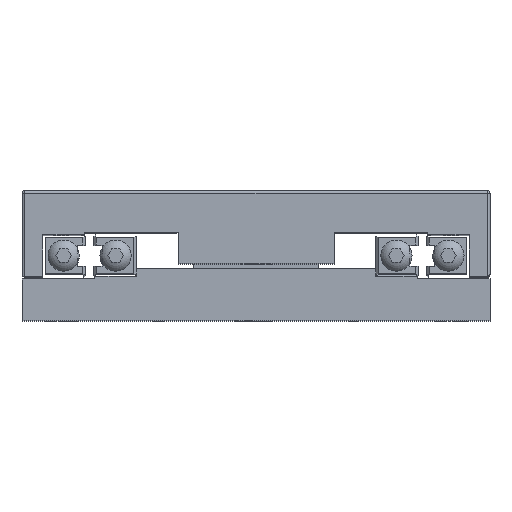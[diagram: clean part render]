
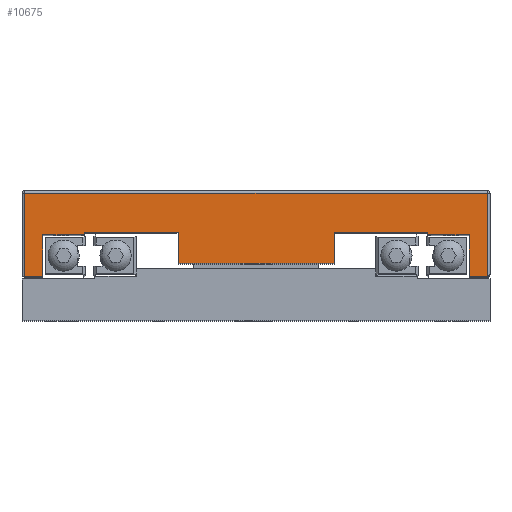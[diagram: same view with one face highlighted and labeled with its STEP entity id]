
A CAD part, top view. The second image highlights one B-rep face of the part: STEP entity #10675.
In plain terms, the highlighted planar face has unit normal (0, 0, 1).
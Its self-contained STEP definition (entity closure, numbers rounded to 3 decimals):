
#1663 = CARTESIAN_POINT ( 'NONE',  ( -67.238, -9.956, 90. ) ) ;
#1664 = DIRECTION ( 'NONE',  ( 0., -1., 0. ) ) ;
#1735 = DIRECTION ( 'NONE',  ( 1., 0., 0. ) ) ;
#1746 = CARTESIAN_POINT ( 'NONE',  ( -67.738, -18.206, 90. ) ) ;
#1764 = CARTESIAN_POINT ( 'NONE',  ( 21.762, -9.956, 90. ) ) ;
#1765 = DIRECTION ( 'NONE',  ( 0., 1., 0. ) ) ;
#1766 = CARTESIAN_POINT ( 'NONE',  ( -55.738, -9.706, 90. ) ) ;
#1767 = DIRECTION ( 'NONE',  ( -1., 0., 0. ) ) ;
#1842 = CARTESIAN_POINT ( 'NONE',  ( 18.262, -10.206, 90. ) ) ;
#1843 = DIRECTION ( 'NONE',  ( 0., 1., 0. ) ) ;
#1852 = CARTESIAN_POINT ( 'NONE',  ( 10.262, -9.706, 90. ) ) ;
#1853 = DIRECTION ( 'NONE',  ( 0., 1., 0. ) ) ;
#1854 = CARTESIAN_POINT ( 'NONE',  ( -63.738, -18.206, 90. ) ) ;
#1855 = DIRECTION ( 'NONE',  ( 0., -1., 0. ) ) ;
#1980 = CARTESIAN_POINT ( 'NONE',  ( -22.738, -2.206, 90. ) ) ;
#1994 = DIRECTION ( 'NONE',  ( -1., 0., 0. ) ) ;
#2138 = EDGE_CURVE ( 'NONE', #3486, #3498, #14800, .T. ) ;
#2166 = EDGE_CURVE ( 'NONE', #3182, #3200, #14755, .T. ) ;
#2168 = EDGE_CURVE ( 'NONE', #3213, #3212, #14750, .T. ) ;
#2174 = EDGE_CURVE ( 'NONE', #3498, #3434, #14743, .T. ) ;
#2191 = EDGE_CURVE ( 'NONE', #3262, #3241, #14718, .T. ) ;
#2193 = EDGE_CURVE ( 'NONE', #3241, #3187, #14714, .T. ) ;
#2205 = EDGE_CURVE ( 'NONE', #3163, #3295, #14697, .T. ) ;
#2207 = EDGE_CURVE ( 'NONE', #3295, #3262, #14692, .T. ) ;
#3163 = VERTEX_POINT ( 'NONE', #4509 ) ;
#3170 = VERTEX_POINT ( 'NONE', #4516 ) ;
#3182 = VERTEX_POINT ( 'NONE', #4528 ) ;
#3187 = VERTEX_POINT ( 'NONE', #4533 ) ;
#3200 = VERTEX_POINT ( 'NONE', #4546 ) ;
#3212 = VERTEX_POINT ( 'NONE', #4558 ) ;
#3213 = VERTEX_POINT ( 'NONE', #4559 ) ;
#3241 = VERTEX_POINT ( 'NONE', #4587 ) ;
#3262 = VERTEX_POINT ( 'NONE', #4608 ) ;
#3295 = VERTEX_POINT ( 'NONE', #4641 ) ;
#3297 = VERTEX_POINT ( 'NONE', #4643 ) ;
#3329 = VERTEX_POINT ( 'NONE', #4675 ) ;
#3434 = VERTEX_POINT ( 'NONE', #4780 ) ;
#3486 = VERTEX_POINT ( 'NONE', #4832 ) ;
#3498 = VERTEX_POINT ( 'NONE', #4844 ) ;
#4509 = CARTESIAN_POINT ( 'NONE',  ( 10.262, -9.706, 90. ) ) ;
#4516 = CARTESIAN_POINT ( 'NONE',  ( 18.262, -18.206, 90. ) ) ;
#4528 = CARTESIAN_POINT ( 'NONE',  ( 18.262, -10.206, 90. ) ) ;
#4533 = CARTESIAN_POINT ( 'NONE',  ( -37.738, -9.706, 90. ) ) ;
#4546 = CARTESIAN_POINT ( 'NONE',  ( 10.262, -10.206, 90. ) ) ;
#4558 = CARTESIAN_POINT ( 'NONE',  ( -63.738, -18.206, 90. ) ) ;
#4559 = CARTESIAN_POINT ( 'NONE',  ( -67.238, -18.206, 90. ) ) ;
#4587 = CARTESIAN_POINT ( 'NONE',  ( -37.738, -15.706, 90. ) ) ;
#4608 = CARTESIAN_POINT ( 'NONE',  ( -7.738, -15.706, 90. ) ) ;
#4641 = CARTESIAN_POINT ( 'NONE',  ( -7.738, -9.706, 90. ) ) ;
#4643 = CARTESIAN_POINT ( 'NONE',  ( -67.238, -2.206, 90. ) ) ;
#4675 = CARTESIAN_POINT ( 'NONE',  ( 21.762, -18.206, 90. ) ) ;
#4780 = CARTESIAN_POINT ( 'NONE',  ( -63.738, -10.206, 90. ) ) ;
#4832 = CARTESIAN_POINT ( 'NONE',  ( -55.738, -9.706, 90. ) ) ;
#4844 = CARTESIAN_POINT ( 'NONE',  ( -55.738, -10.206, 90. ) ) ;
#4988 = CARTESIAN_POINT ( 'NONE',  ( 21.762, -2.206, 90. ) ) ;
#6228 = DIRECTION ( 'NONE',  ( 0., -1., 0. ) ) ;
#6236 = CARTESIAN_POINT ( 'NONE',  ( -55.738, -10.206, 90. ) ) ;
#6301 = CARTESIAN_POINT ( 'NONE',  ( 10.262, -10.206, 90. ) ) ;
#6310 = DIRECTION ( 'NONE',  ( -1., 0., 0. ) ) ;
#6312 = CARTESIAN_POINT ( 'NONE',  ( -67.738, -18.206, 90. ) ) ;
#6314 = DIRECTION ( 'NONE',  ( 1., 0., 0. ) ) ;
#6315 = CARTESIAN_POINT ( 'NONE',  ( -63.738, -10.206, 90. ) ) ;
#6325 = DIRECTION ( 'NONE',  ( -1., 0., 0. ) ) ;
#6366 = CARTESIAN_POINT ( 'NONE',  ( -37.738, -9.706, 90. ) ) ;
#6372 = CARTESIAN_POINT ( 'NONE',  ( -37.738, -15.706, 90. ) ) ;
#6374 = DIRECTION ( 'NONE',  ( -1., 0., 0. ) ) ;
#6379 = DIRECTION ( 'NONE',  ( 0., 1., 0. ) ) ;
#6403 = CARTESIAN_POINT ( 'NONE',  ( -7.738, -9.706, 90. ) ) ;
#6408 = DIRECTION ( 'NONE',  ( -1., 0., 0. ) ) ;
#6411 = CARTESIAN_POINT ( 'NONE',  ( -7.738, -15.706, 90. ) ) ;
#6413 = DIRECTION ( 'NONE',  ( 0., -1., 0. ) ) ;
#7571 = EDGE_LOOP ( 'NONE', ( #15061, #15060, #15059, #15058, #15057, #15056, #15055, #15054, #15053, #15052, #15051, #15050, #15049, #15048, #15047, #15046 ) ) ;
#7587 = VERTEX_POINT ( 'NONE', #4988 ) ;
#8556 = AXIS2_PLACEMENT_3D ( 'NONE', #14348, #14357, #14358 ) ;
#10675 = ADVANCED_FACE ( 'NONE', ( #16125 ), #14354, .F. ) ;
#11064 = VECTOR ( 'NONE', #1994, 1000. ) ;
#11074 = LINE ( 'NONE', #1980, #11064 ) ;
#11145 = VECTOR ( 'NONE', #1855, 1000. ) ;
#11149 = VECTOR ( 'NONE', #1853, 1000. ) ;
#11151 = LINE ( 'NONE', #1854, #11145 ) ;
#11152 = VECTOR ( 'NONE', #1843, 1000. ) ;
#11154 = LINE ( 'NONE', #1852, #11149 ) ;
#11156 = LINE ( 'NONE', #1842, #11152 ) ;
#11225 = VECTOR ( 'NONE', #1767, 1000. ) ;
#11229 = VECTOR ( 'NONE', #1765, 1000. ) ;
#11231 = LINE ( 'NONE', #1766, #11225 ) ;
#11238 = LINE ( 'NONE', #1764, #11229 ) ;
#11250 = VECTOR ( 'NONE', #1735, 1000. ) ;
#11268 = LINE ( 'NONE', #1746, #11250 ) ;
#11327 = VECTOR ( 'NONE', #1664, 1000. ) ;
#11332 = LINE ( 'NONE', #1663, #11327 ) ;
#13019 = EDGE_CURVE ( 'NONE', #3297, #3213, #11332, .T. ) ;
#13051 = EDGE_CURVE ( 'NONE', #3170, #3329, #11268, .T. ) ;
#13058 = EDGE_CURVE ( 'NONE', #3329, #7587, #11238, .T. ) ;
#13059 = EDGE_CURVE ( 'NONE', #3187, #3486, #11231, .T. ) ;
#13090 = EDGE_CURVE ( 'NONE', #3170, #3182, #11156, .T. ) ;
#13091 = EDGE_CURVE ( 'NONE', #3200, #3163, #11154, .T. ) ;
#13092 = EDGE_CURVE ( 'NONE', #3434, #3212, #11151, .T. ) ;
#13125 = EDGE_CURVE ( 'NONE', #7587, #3297, #11074, .T. ) ;
#14348 = CARTESIAN_POINT ( 'NONE',  ( -22.738, -9.956, 90. ) ) ;
#14354 = PLANE ( 'NONE',  #8556 ) ;
#14357 = DIRECTION ( 'NONE',  ( 0., 0., -1. ) ) ;
#14358 = DIRECTION ( 'NONE',  ( -1., 0., 0. ) ) ;
#14690 = VECTOR ( 'NONE', #6413, 1000. ) ;
#14692 = LINE ( 'NONE', #6411, #14690 ) ;
#14693 = VECTOR ( 'NONE', #6408, 1000. ) ;
#14697 = LINE ( 'NONE', #6403, #14693 ) ;
#14712 = VECTOR ( 'NONE', #6379, 1000. ) ;
#14714 = LINE ( 'NONE', #6366, #14712 ) ;
#14716 = VECTOR ( 'NONE', #6374, 1000. ) ;
#14718 = LINE ( 'NONE', #6372, #14716 ) ;
#14737 = VECTOR ( 'NONE', #6325, 1000. ) ;
#14743 = LINE ( 'NONE', #6315, #14737 ) ;
#14748 = VECTOR ( 'NONE', #6314, 1000. ) ;
#14750 = LINE ( 'NONE', #6312, #14748 ) ;
#14751 = VECTOR ( 'NONE', #6310, 1000. ) ;
#14755 = LINE ( 'NONE', #6301, #14751 ) ;
#14794 = VECTOR ( 'NONE', #6228, 1000. ) ;
#14800 = LINE ( 'NONE', #6236, #14794 ) ;
#15046 = ORIENTED_EDGE ( 'NONE', *, *, #13090, .F. ) ;
#15047 = ORIENTED_EDGE ( 'NONE', *, *, #2166, .F. ) ;
#15048 = ORIENTED_EDGE ( 'NONE', *, *, #13091, .F. ) ;
#15049 = ORIENTED_EDGE ( 'NONE', *, *, #2205, .F. ) ;
#15050 = ORIENTED_EDGE ( 'NONE', *, *, #2207, .F. ) ;
#15051 = ORIENTED_EDGE ( 'NONE', *, *, #2191, .F. ) ;
#15052 = ORIENTED_EDGE ( 'NONE', *, *, #2193, .F. ) ;
#15053 = ORIENTED_EDGE ( 'NONE', *, *, #13059, .F. ) ;
#15054 = ORIENTED_EDGE ( 'NONE', *, *, #2138, .F. ) ;
#15055 = ORIENTED_EDGE ( 'NONE', *, *, #2174, .F. ) ;
#15056 = ORIENTED_EDGE ( 'NONE', *, *, #13092, .F. ) ;
#15057 = ORIENTED_EDGE ( 'NONE', *, *, #2168, .T. ) ;
#15058 = ORIENTED_EDGE ( 'NONE', *, *, #13019, .T. ) ;
#15059 = ORIENTED_EDGE ( 'NONE', *, *, #13125, .T. ) ;
#15060 = ORIENTED_EDGE ( 'NONE', *, *, #13058, .T. ) ;
#15061 = ORIENTED_EDGE ( 'NONE', *, *, #13051, .T. ) ;
#16125 = FACE_OUTER_BOUND ( 'NONE', #7571, .T. ) ;
